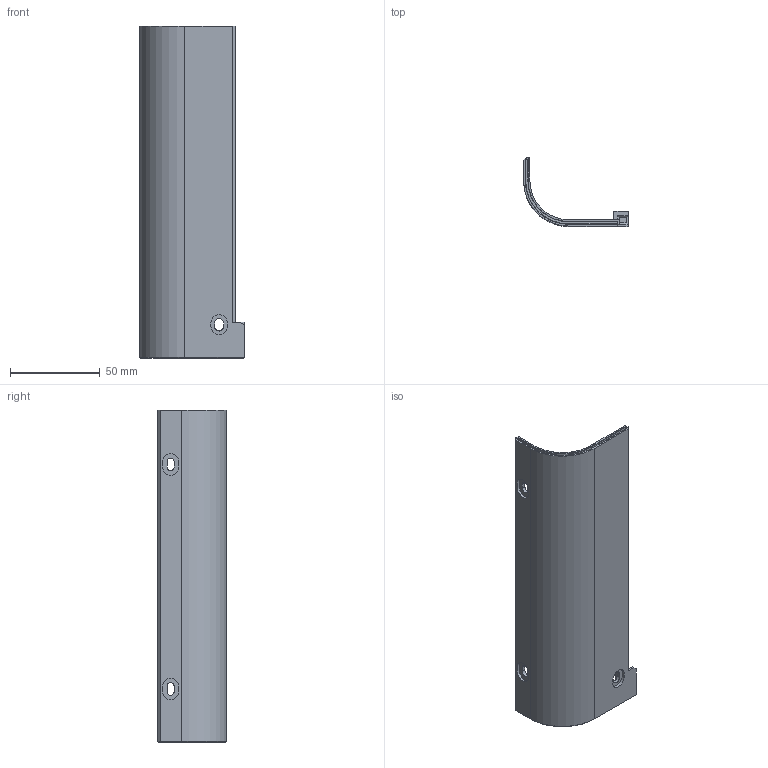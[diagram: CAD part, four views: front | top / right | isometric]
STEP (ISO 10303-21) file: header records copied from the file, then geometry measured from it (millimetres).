
FILE_DESCRIPTION (( 'STEP AP203' ), '1' );
FILE_NAME ('誘啣C2.STEP', '2024-01-02T07:32:56', ( '' ), ( '' ), 'SwSTEP 2.0', 'SolidWorks 2014', '' );
FILE_SCHEMA (( 'CONFIG_CONTROL_DESIGN' ));
Length unit declared in the file: millimetre
Products named in the file (1): 誘啣C2
Bounding box: 58.2 x 38.2 x 184.75 mm (x, y, z)
Volume: 48979.3 mm3; surface area: 32055.1 mm2
Topology: 1 solids, 1 shells, 120 faces, 301 edges, 192 vertices
Faces by surface type: plane 79, cylinder 25, bspline 11, cone 5
Entity records: 4603 total; most frequent: CARTESIAN_POINT 1673, ORIENTED_EDGE 602, DIRECTION 554, EDGE_CURVE 301, LINE 224, VECTOR 224, VERTEX_POINT 192, AXIS2_PLACEMENT_3D 165
